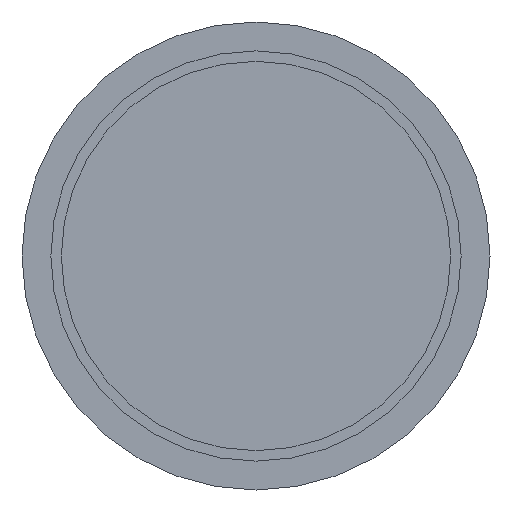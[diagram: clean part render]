
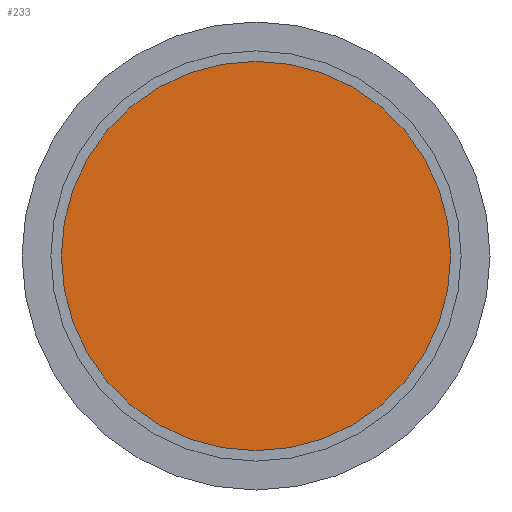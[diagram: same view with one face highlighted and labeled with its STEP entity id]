
A CAD part, left-side view. The second image highlights one B-rep face of the part: STEP entity #233.
In plain terms, the highlighted planar face has unit normal (-1, 0, 0).
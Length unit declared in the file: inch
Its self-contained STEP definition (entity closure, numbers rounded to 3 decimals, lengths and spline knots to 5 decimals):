
#19=PLANE('',#285);
#41=FACE_OUTER_BOUND('',#54,.T.);
#54=EDGE_LOOP('',(#188,#189));
#81=CIRCLE('',#286,1.456);
#82=CIRCLE('',#287,1.456);
#106=VERTEX_POINT('',#432);
#107=VERTEX_POINT('',#433);
#136=EDGE_CURVE('',#106,#107,#81,.T.);
#137=EDGE_CURVE('',#107,#106,#82,.T.);
#188=ORIENTED_EDGE('',*,*,#136,.F.);
#189=ORIENTED_EDGE('',*,*,#137,.F.);
#233=ADVANCED_FACE('',(#41),#19,.T.);
#285=AXIS2_PLACEMENT_3D('',#431,#356,#357);
#286=AXIS2_PLACEMENT_3D('',#434,#358,#359);
#287=AXIS2_PLACEMENT_3D('',#435,#360,#361);
#356=DIRECTION('center_axis',(-1.,0.,0.));
#357=DIRECTION('ref_axis',(0.,0.,1.));
#358=DIRECTION('center_axis',(1.,0.,0.));
#359=DIRECTION('ref_axis',(0.,1.,0.));
#360=DIRECTION('center_axis',(1.,0.,0.));
#361=DIRECTION('ref_axis',(0.,1.,0.));
#431=CARTESIAN_POINT('Origin',(0.784,0.728,0.));
#432=CARTESIAN_POINT('',(0.784,1.456,0.));
#433=CARTESIAN_POINT('',(0.784,-1.456,0.));
#434=CARTESIAN_POINT('Origin',(0.784,0.,0.));
#435=CARTESIAN_POINT('Origin',(0.784,0.,0.));
